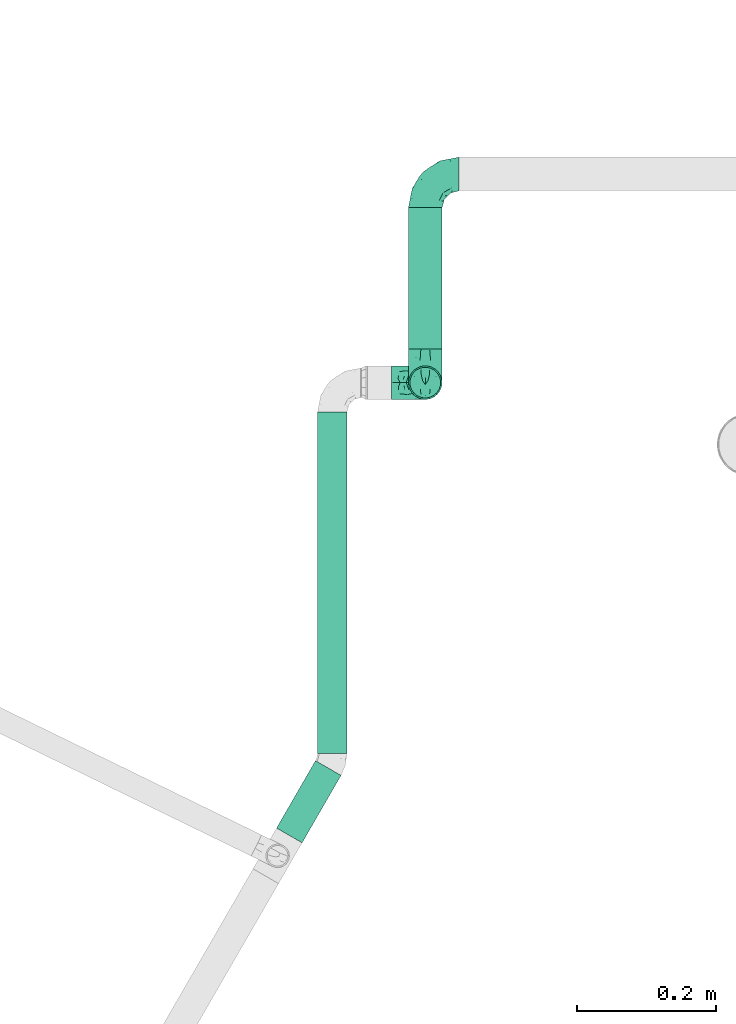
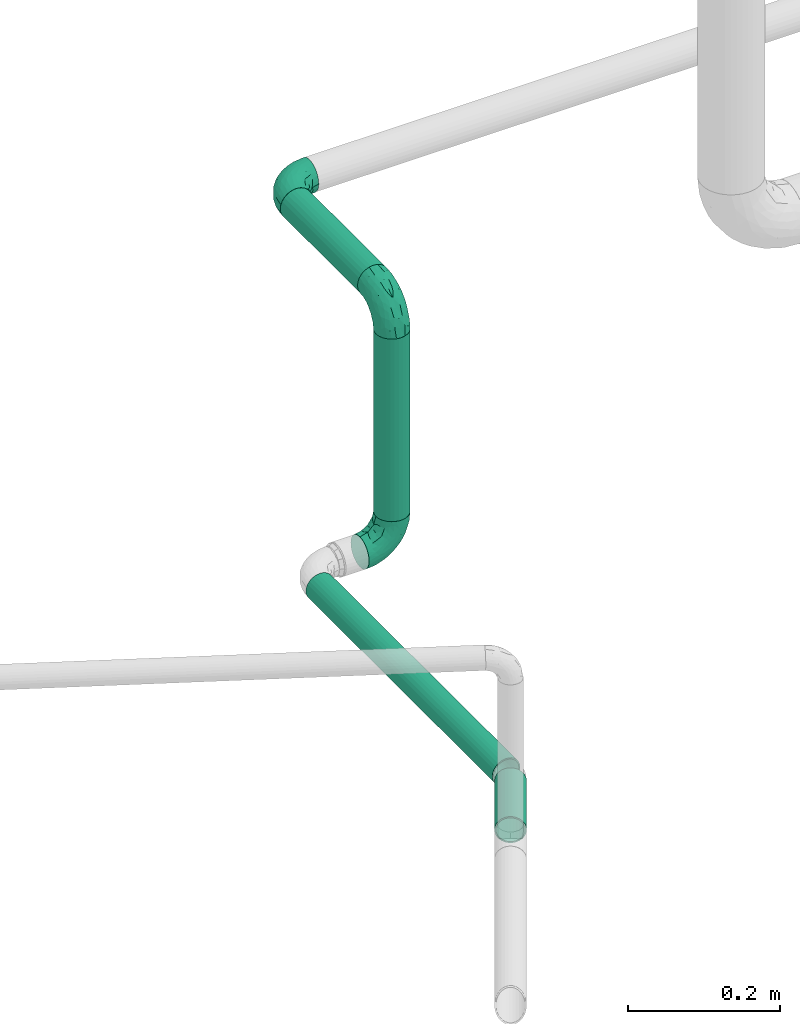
# One storey, part 5 of 43: 4 flow segments, 3 flow fittings.
"""IFC2X3 building model written with IfcOpenShell, lengths in millimetres."""

from ifc_helpers import new_model, entity, si_unit, converted_unit, derived_unit, direction, frame, origin_with_axes, origin_2d_with_axis, place, context, subcontext, project, spatial, hollow_circle, extrude, open_shell, surface_model, source, transform, mapped, type_object, element, save


model = new_model("IFC2X3")

# Units and contexts
model_context = context("Model", 3, precision=0.01, world=frame((0.0, 4.29681676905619e-09, 0.0)), true_north=direction((4.01073788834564e-13, 1.0)))
plan_context = context("Plan", 3, precision=0.01, world=frame((0.0, 4.29681676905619e-09, 0.0)), true_north=direction((4.01073788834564e-13, 1.0)))
body_context = subcontext(model_context, "Body", "Model", "MODEL_VIEW")
ifc_project = project(units=[converted_unit("PLANEANGLEUNIT", "DEGREE", entity("IfcPositiveLengthMeasure", 0.0174532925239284), si_unit("PLANEANGLEUNIT", "RADIAN"), dimensions=[0, 0, 0, 0, 0, 0, 0]), si_unit("AREAUNIT", "SQUARE_METRE"), si_unit("LENGTHUNIT", "METRE", prefix="MILLI"), si_unit("MASSUNIT", "GRAM", prefix="KILO"), si_unit("POWERUNIT", "WATT"), si_unit("PRESSUREUNIT", "PASCAL"), si_unit("FORCEUNIT", "NEWTON", prefix="KILO"), si_unit("ELECTRICVOLTAGEUNIT", "VOLT"), si_unit("ELECTRICCURRENTUNIT", "AMPERE"), si_unit("THERMODYNAMICTEMPERATUREUNIT", "DEGREE_CELSIUS"), si_unit("TIMEUNIT", "SECOND"), si_unit("VOLUMEUNIT", "CUBIC_METRE"), derived_unit("LINEARVELOCITYUNIT", [(si_unit("LENGTHUNIT", "METRE"), 1), (si_unit("TIMEUNIT", "SECOND"), -1)]), derived_unit("VOLUMETRICFLOWRATEUNIT", [(si_unit("VOLUMEUNIT", "CUBIC_METRE"), 1), (si_unit("TIMEUNIT", "SECOND"), -1)]), derived_unit("THERMALTRANSMITTANCEUNIT", [(si_unit("POWERUNIT", "WATT"), 1), (si_unit("THERMODYNAMICTEMPERATUREUNIT", "KELVIN"), -1), (si_unit("AREAUNIT", "SQUARE_METRE"), -1)]), derived_unit("SOUNDPRESSUREUNIT", [(si_unit("PRESSUREUNIT", "PASCAL"), 1)])], contexts=[model_context, plan_context])

# Site, building, storey
site_placement = place(None, frame((0.0, -4.29681676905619e-09, 0.0), z_axis=(0.0, 0.0, 1.0), x_axis=(1.0, 0.0, 0.0)))
site = spatial("IfcSite", under=ifc_project, at=site_placement, CompositionType="ELEMENT")
building_placement = place(site_placement, frame((0.0, 4.29681676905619e-09, 0.0), z_axis=(0.0, 0.0, 1.0), x_axis=(1.0, 0.0, 0.0)))
building = spatial("IfcBuilding", under=site, at=building_placement, Name="mc-building", CompositionType="ELEMENT")
storey_placement = place(building_placement, frame((0.0, 0.0, 210900.0), z_axis=(0.0, 0.0, 1.0), x_axis=(1.0, 0.0, 0.0)))
storey = spatial("IfcBuildingStorey", under=building, at=storey_placement, Name="Nivå F", CompositionType="ELEMENT", Elevation=210900.0)

# Flow fittings
pipe_fitting_type = type_object("IfcPipeFittingType", Name="magi_pipe_fe_elbow_short_001", PredefinedType="BEND")
shared_shape_1 = source(origin_with_axes(), body_context, "Body", "SurfaceModel", [
    surface_model("IfcShellBasedSurfaceModel", [(-48.4, 6.26342, -23.37541), (-48.4, 0.0, -24.2), (-48.4, 17.11198, -17.11198), (-48.4, 12.1, -20.95781), (-48.4, 23.37541, -6.26342), (-48.4, 20.95781, -12.1), (-48.4, -12.1, -20.95781), (-48.4, -17.11198, -17.11198), (-48.4, -20.95781, -12.1), (-48.4, -6.26342, -23.37541), (-48.4, -23.37541, -6.26342), (-48.4, -24.2, 0.0), (-48.4, -23.37541, 6.26342), (-48.4, 23.37541, 6.26342), (-48.4, 6.26342, 23.37541), (-48.4, 20.95781, 12.1), (-48.4, 17.11198, 17.11198), (-48.4, 12.1, 20.95781), (-48.4, -12.1, 20.95781), (-48.4, -20.95781, 12.1), (-48.4, -17.11198, 17.11198), (-48.4, -6.26342, 23.37541), (-48.4, 0.0, 24.2), (-48.4, 24.2, 0.0), (-17.11198, 48.4, -17.11198), (0.0, 48.4, -24.2), (-6.26342, 48.4, -23.37541), (-12.1, 48.4, -20.95781), (-20.95781, 48.4, -12.1), (-23.37541, 48.4, -6.26342), (12.1, 48.4, -20.95781), (20.95781, 48.4, -12.1), (17.11198, 48.4, -17.11198), (6.26342, 48.4, -23.37541), (23.37541, 48.4, -6.26342), (23.37541, 48.4, 6.26342), (24.2, 48.4, 0.0), (-23.37541, 48.4, 6.26342), (-6.26342, 48.4, 23.37541), (-17.11198, 48.4, 17.11198), (-20.95781, 48.4, 12.1), (-12.1, 48.4, 20.95781), (12.1, 48.4, 20.95781), (17.11198, 48.4, 17.11198), (20.95781, 48.4, 12.1), (0.0, 48.4, 24.2), (6.26342, 48.4, 23.37541), (-24.2, 48.4, 0.0), (-35.50368, -18.80076, 13.58523), (-31.77913, -13.9618, 18.03279), (-34.50859, -21.43683, 0.0), (-21.39243, -15.41147, 12.21413), (-32.16301, -21.12203, 7.54749), (21.12203, 32.16301, 7.54749), (17.07617, 18.95745, 6.20374), (18.67365, 20.61718, 0.0), (-23.65565, 38.62451, 10.51816), (-20.21592, 37.67665, 15.89859), (-35.56981, -9.15108, 21.77256), (-36.96985, -3.20584, 23.78612), (-33.88786, 3.70953, 24.15875), (-8.84062, -10.8048, 0.0), (-18.95745, -17.07617, 6.20374), (-20.61718, -18.67365, 0.0), (-18.69715, -5.87343, 20.10488), (-24.09336, -0.21717, 23.45593), (-2.08262, -4.09091, 10.90396), (-0.40561, 0.49936, 14.45569), (-8.22634, -5.79523, 14.90978), (-37.83027, 20.17367, 15.88169), (-8.41063, 23.79825, 24.15658), (-17.92529, 17.92529, 23.61199), (-14.40991, 10.5752, 24.07534), (-41.86919, 14.6551, 19.71874), (-9.03342, 41.7434, 22.66763), (-3.31671, 36.19978, 24.14056), (-38.63654, 23.65174, 10.51655), (-38.25939, 25.77657, 5.32075), (-30.0475, 30.0475, 9.04616), (-37.30448, 9.49113, 22.86036), (-6.31688, 16.20853, 23.76192), (-12.02449, 4.43954, 22.59792), (-2.47225, 13.07459, 22.23951), (-4.32281, 4.32281, 19.78555), (13.9618, 31.77913, 18.03279), (15.41147, 21.39243, 12.21413), (18.80076, 35.50367, 13.58523), (-25.72741, 16.42033, 22.38358), (-26.59277, 10.36599, 23.76692), (3.20584, 36.96985, 23.78612), (9.15107, 35.56981, 21.77256), (5.87343, 18.69715, 20.10488), (21.43683, 34.50859, 0.0), (-23.74657, 5.93004, 24.18967), (-22.40302, 25.55556, 19.88516), (-33.3245, 16.42738, 20.3789), (-25.47357, 39.04012, 5.19167), (-30.32947, 31.74105, 4.25904), (11.04589, 19.60124, 16.55181), (-27.44219, 36.3, 0.0), (-10.46605, 32.79159, 23.04712), (-13.80953, 25.05111, 23.26361), (-17.54489, 31.27863, 20.33941), (-19.27982, 23.42922, 22.01925), (-14.78447, 40.57947, 19.81913), (-19.60124, -11.04589, 16.55181), (-25.09785, 32.07921, 13.69695), (-25.5093, 27.02629, 17.14196), (-31.08127, 26.00324, 13.49448), (0.21717, 24.09336, 23.45593), (5.51075, 8.40547, 15.32867), (-11.48597, -10.80284, 11.35932), (1.43689, -3.14326, 6.54995), (7.34882, 4.31024, 8.4514), (7.50574, 2.51208, 3.62663), (12.46453, 10.09451, 5.71609), (12.1504, 12.55391, 10.15678), (-36.3, 27.44219, 0.0), (-6.52237, -9.62364, 7.02633), (2.93595, -2.93595, 0.0), (10.8048, 8.84062, 0.0), (-19.60124, -11.04589, -16.55181), (-31.77913, -13.9618, -18.03279), (-18.69715, -5.87343, -20.10488), (-21.39243, -15.41147, -12.21413), (-37.67665, 20.21591, -15.89859), (-40.57947, 14.78447, -19.81913), (-39.04012, 25.47357, -5.19167), (-32.16301, -21.12203, -7.54749), (-30.0475, 30.0475, -9.04616), (-38.62452, 23.65565, -10.51816), (-18.95745, -17.07617, -6.20374), (-23.42922, 19.27982, -22.01926), (-25.05111, 13.80953, -23.26361), (-31.27863, 17.54489, -20.33941), (-14.6551, 41.86919, -19.71874), (-20.17367, 37.83026, -15.88169), (9.15108, 35.56981, -21.77256), (5.87343, 18.69715, -20.10488), (0.21717, 24.09336, -23.45593), (-41.7434, 9.03342, -22.66763), (-35.50368, -18.80076, -13.58523), (-35.56981, -9.15108, -21.77256), (-16.42033, 25.72741, -22.38358), (-9.49113, 37.30447, -22.86036), (-10.36599, 26.59277, -23.76692), (-36.96985, -3.20584, -23.78612), (-23.79826, 8.41063, -24.15658), (-17.92529, 17.92529, -23.61199), (-10.5752, 14.40991, -24.07534), (-36.19978, 3.31671, -24.14056), (-25.77657, 38.25939, -5.32075), (-23.65174, 38.63654, -10.51655), (-32.79159, 10.46605, -23.04712), (-31.74105, 30.32946, -4.25904), (-5.93004, 23.74657, -24.18967), (-25.55556, 22.40302, -19.88516), (-16.42738, 33.3245, -20.3789), (3.20584, 36.96985, -23.78612), (-3.70953, 33.88785, -24.15875), (18.80076, 35.50367, -13.58523), (13.9618, 31.77913, -18.03279), (7.50574, 2.51208, -3.62663), (12.46453, 10.09451, -5.71609), (-16.20853, 6.31688, -23.76192), (-4.43954, 12.02449, -22.59792), (-13.07459, 2.47225, -22.23951), (15.41147, 21.39243, -12.21413), (21.12203, 32.16301, -7.54749), (17.07617, 18.95745, -6.20374), (-32.07921, 25.09785, -13.69695), (11.04589, 19.60124, -16.55181), (12.1504, 12.55391, -10.15678), (5.51075, 8.40547, -15.32867), (-27.02629, 25.5093, -17.14196), (-26.00324, 31.08127, -13.49448), (-24.09336, -0.21717, -23.45593), (-4.32281, 4.32281, -19.78555), (-8.22634, -5.79524, -14.90978), (-11.48597, -10.80284, -11.35931), (-0.40561, 0.49936, -14.45569), (-6.52237, -9.62364, -7.02632), (-2.08262, -4.09091, -10.90396), (7.34882, 4.31024, -8.4514), (1.43689, -3.14326, -6.54994)], [open_shell([[[0, 1, 2]], [[3, 0, 2]], [[4, 5, 2]], [[6, 2, 1]], [[4, 2, 6]], [[7, 8, 6]], [[1, 9, 6]], [[8, 10, 6]], [[6, 10, 4]], [[11, 12, 10]], [[13, 4, 10]], [[14, 13, 10]], [[15, 13, 16]], [[13, 14, 17]], [[16, 13, 17]], [[10, 18, 14]], [[19, 20, 12]], [[20, 10, 12]], [[21, 22, 18]], [[20, 18, 10]], [[18, 22, 14]], [[23, 4, 13]], [[24, 25, 26]], [[24, 26, 27]], [[24, 28, 29]], [[25, 24, 30]], [[30, 24, 29]], [[30, 31, 32]], [[30, 33, 25]], [[30, 34, 31]], [[29, 34, 30]], [[34, 35, 36]], [[34, 29, 37]], [[34, 37, 38]], [[39, 37, 40]], [[41, 38, 37]], [[41, 37, 39]], [[38, 42, 34]], [[35, 43, 44]], [[35, 34, 43]], [[42, 45, 46]], [[34, 42, 43]], [[38, 45, 42]], [[37, 29, 47]], [[20, 48, 49]], [[12, 11, 50]], [[51, 48, 52]], [[53, 54, 55]], [[48, 20, 19]], [[12, 52, 19]], [[40, 56, 57]], [[49, 18, 20]], [[49, 58, 18]], [[22, 59, 60]], [[61, 62, 63]], [[58, 64, 65]], [[66, 67, 68]], [[15, 16, 69]], [[70, 71, 72]], [[17, 73, 16]], [[21, 59, 22]], [[38, 74, 75]], [[22, 60, 14]], [[15, 69, 76]], [[16, 73, 69]], [[23, 13, 77]], [[13, 15, 76]], [[77, 76, 78]], [[14, 79, 17]], [[80, 81, 82]], [[68, 83, 64]], [[84, 43, 42]], [[85, 86, 84]], [[87, 79, 88]], [[18, 58, 21]], [[45, 89, 46]], [[53, 35, 44]], [[45, 38, 75]], [[84, 90, 91]], [[44, 86, 53]], [[92, 35, 53]], [[86, 44, 43]], [[90, 42, 46]], [[53, 55, 92]], [[88, 93, 72]], [[54, 53, 85]], [[87, 94, 95]], [[78, 96, 97]], [[98, 84, 91]], [[99, 96, 47]], [[79, 14, 60]], [[96, 78, 56]], [[62, 52, 63]], [[57, 39, 40]], [[100, 70, 75]], [[101, 102, 103]], [[12, 50, 52]], [[104, 41, 39]], [[74, 38, 41]], [[57, 102, 104]], [[105, 64, 49]], [[90, 84, 42]], [[40, 37, 56]], [[56, 106, 57]], [[102, 57, 107]], [[95, 107, 69]], [[76, 108, 78]], [[100, 101, 70]], [[89, 75, 109]], [[64, 58, 49]], [[63, 52, 50]], [[59, 58, 65]], [[105, 49, 51]], [[64, 83, 81]], [[89, 90, 46]], [[36, 35, 92]], [[109, 82, 91]], [[109, 91, 90]], [[91, 83, 110]], [[111, 68, 105]], [[66, 68, 111]], [[62, 51, 52]], [[66, 112, 113]], [[114, 115, 113]], [[98, 85, 84]], [[52, 48, 19]], [[49, 48, 51]], [[84, 86, 43]], [[53, 86, 85]], [[88, 79, 60]], [[73, 79, 95]], [[96, 56, 37]], [[78, 108, 106]], [[87, 103, 94]], [[100, 74, 104]], [[108, 69, 107]], [[78, 97, 77]], [[88, 72, 71]], [[109, 75, 70]], [[81, 72, 65]], [[70, 72, 80]], [[75, 89, 45]], [[90, 89, 109]], [[58, 59, 21]], [[60, 59, 65]], [[67, 83, 68]], [[110, 113, 116]], [[88, 60, 93]], [[87, 88, 71]], [[103, 87, 71]], [[79, 87, 95]], [[101, 103, 71]], [[94, 103, 102]], [[47, 96, 37]], [[96, 99, 97]], [[99, 117, 97]], [[97, 117, 77]], [[23, 77, 117]], [[13, 76, 77]], [[60, 65, 93]], [[65, 72, 93]], [[70, 101, 71]], [[102, 101, 100]], [[69, 108, 76]], [[106, 108, 107]], [[57, 106, 107]], [[78, 106, 56]], [[57, 104, 39]], [[100, 104, 102]], [[102, 107, 94]], [[95, 94, 107]], [[64, 81, 65]], [[82, 81, 83]], [[91, 82, 83]], [[80, 82, 109]], [[70, 80, 109]], [[81, 80, 72]], [[79, 73, 17]], [[69, 73, 95]], [[104, 74, 41]], [[75, 74, 100]], [[62, 61, 118]], [[111, 62, 118]], [[113, 115, 116]], [[119, 118, 61]], [[111, 105, 51]], [[113, 112, 114]], [[120, 55, 54]], [[68, 64, 105]], [[91, 110, 98]], [[116, 98, 110]], [[62, 111, 51]], [[66, 111, 118]], [[112, 66, 118]], [[67, 113, 110]], [[118, 119, 112]], [[114, 112, 119]], [[119, 120, 114]], [[115, 120, 54]], [[120, 115, 114]], [[116, 54, 85]], [[54, 116, 115]], [[116, 85, 98]], [[113, 67, 66]], [[83, 67, 110]], [[121, 122, 123]], [[122, 121, 124]], [[5, 125, 2]], [[2, 126, 3]], [[117, 127, 23]], [[50, 10, 128]], [[127, 129, 130]], [[128, 131, 63]], [[132, 133, 134]], [[24, 135, 136]], [[137, 138, 139]], [[3, 140, 0]], [[128, 8, 141]], [[142, 6, 9]], [[128, 63, 50]], [[5, 4, 130]], [[8, 7, 141]], [[143, 144, 145]], [[146, 9, 1]], [[147, 148, 149]], [[8, 128, 10]], [[124, 141, 122]], [[150, 1, 0]], [[151, 152, 129]], [[125, 134, 126]], [[153, 147, 150]], [[127, 154, 129]], [[145, 155, 149]], [[47, 29, 151]], [[143, 156, 157]], [[152, 29, 28]], [[25, 158, 159]], [[122, 7, 6]], [[24, 27, 135]], [[144, 27, 26]], [[32, 160, 161]], [[25, 33, 158]], [[120, 162, 163]], [[130, 125, 5]], [[24, 136, 28]], [[0, 140, 150]], [[30, 161, 137]], [[142, 122, 6]], [[25, 159, 26]], [[164, 165, 166]], [[31, 160, 32]], [[161, 30, 32]], [[167, 160, 168]], [[131, 128, 124]], [[36, 92, 34]], [[34, 92, 168]], [[169, 168, 55]], [[34, 168, 31]], [[144, 26, 159]], [[130, 170, 125]], [[171, 172, 173]], [[136, 152, 28]], [[30, 137, 33]], [[122, 142, 123]], [[134, 125, 174]], [[157, 174, 136]], [[152, 175, 129]], [[153, 133, 147]], [[146, 150, 176]], [[146, 142, 9]], [[11, 10, 50]], [[176, 166, 123]], [[176, 123, 142]], [[123, 177, 178]], [[138, 137, 161]], [[55, 168, 92]], [[158, 137, 139]], [[171, 161, 167]], [[138, 177, 165]], [[177, 138, 173]], [[124, 121, 179]], [[173, 180, 177]], [[61, 131, 181]], [[182, 181, 179]], [[169, 167, 168]], [[122, 141, 7]], [[128, 141, 124]], [[168, 160, 31]], [[161, 160, 167]], [[145, 144, 159]], [[135, 144, 157]], [[127, 130, 4]], [[129, 175, 170]], [[143, 132, 156]], [[153, 140, 126]], [[175, 136, 174]], [[129, 154, 151]], [[145, 149, 148]], [[176, 150, 147]], [[165, 149, 139]], [[147, 149, 164]], [[150, 146, 1]], [[142, 146, 176]], [[137, 158, 33]], [[159, 158, 139]], [[171, 138, 161]], [[183, 182, 180]], [[145, 159, 155]], [[143, 145, 148]], [[132, 143, 148]], [[144, 143, 157]], [[133, 132, 148]], [[156, 132, 134]], [[23, 127, 4]], [[127, 117, 154]], [[117, 99, 154]], [[154, 99, 151]], [[47, 151, 99]], [[29, 152, 151]], [[159, 139, 155]], [[139, 149, 155]], [[147, 133, 148]], [[134, 133, 153]], [[136, 175, 152]], [[170, 175, 174]], [[125, 170, 174]], [[129, 170, 130]], [[125, 126, 2]], [[153, 126, 134]], [[134, 174, 156]], [[157, 156, 174]], [[138, 165, 139]], [[166, 165, 177]], [[123, 166, 177]], [[164, 166, 176]], [[147, 164, 176]], [[165, 164, 149]], [[144, 135, 27]], [[136, 135, 157]], [[126, 140, 3]], [[150, 140, 153]], [[179, 131, 124]], [[181, 119, 61]], [[63, 131, 61]], [[169, 163, 172]], [[169, 55, 120]], [[123, 178, 121]], [[179, 121, 178]], [[172, 171, 167]], [[173, 138, 171]], [[182, 179, 178]], [[131, 179, 181]], [[180, 182, 178]], [[163, 162, 183]], [[120, 119, 162]], [[172, 163, 183]], [[120, 163, 169]], [[173, 172, 183]], [[169, 172, 167]], [[177, 180, 178]], [[183, 180, 173]], [[184, 181, 182]], [[184, 182, 183]], [[119, 181, 184]], [[119, 184, 162]], [[162, 184, 183]]])]),
])
for number, where, z_axis, x_axis, name in (
    (1, (605702.39161, 697325.26176, 2270.0), (0.0, -1.0, 0.0), (1.0, 0.0, 0.0), "magi_pipe_fe_elbow_short_001"),
    (2, (605702.39161, 697325.26176, 2660.0), (-1.0, 0.0, 0.0), (0.0, 0.0, 1.0), "magi_pipe_fe_elbow_short_001"),
    (3, (605702.39161, 697625.26176, 2660.0), (0.0, 0.0, 1.0), (-1.0, 0.0, 0.0), "magi_pipe_fe_elbow_short_001"),
):
    element("IfcFlowFitting", number, at=place(storey_placement, frame(where, z_axis=z_axis, x_axis=x_axis)), inside=storey, type_object=pipe_fitting_type, Name=name, context=body_context, shape_type="MappedRepresentation", body=[
        mapped(shared_shape_1, transform((0.0, 0.0, 0.0), scale=1.0)),
    ])

# Flow segments
pipe_segment_type = type_object("IfcPipeSegmentType", Name="Stålrør normaltykke", PredefinedType="RIGIDSEGMENT")
shared_shape_2 = source(origin_with_axes(), body_context, "Body", "SweptSolid", [
    extrude(hollow_circle(Radius=21.2, WallThickness=2.0, at=origin_2d_with_axis()), frame((0.0, 0.0, 0.0), z_axis=(1.0, 0.0, 0.0), x_axis=(0.0, 1.0, 0.0)), (0.0, 0.0, 1.0), 490.5),
])
flow_segment_1_placement = place(storey_placement, frame((605568.59161, 696792.32599, 2270.0), z_axis=(0.0, 0.0, 1.0), x_axis=(0.0, 1.0, 0.0)))
element("IfcFlowSegment", 4, at=flow_segment_1_placement, inside=storey, type_object=pipe_segment_type, Name="Stålrør normaltykke", context=body_context, shape_type="MappedRepresentation", body=[
    mapped(shared_shape_2, transform((0.0, 0.0, 0.0), scale=1.0)),
])
shared_shape_3 = source(origin_with_axes(), body_context, "Body", "SweptSolid", [
    extrude(hollow_circle(Radius=24.1, WallThickness=2.0, at=origin_2d_with_axis()), frame((0.0, 0.0, 0.0), z_axis=(1.0, 0.0, 0.0), x_axis=(0.0, 1.0, 0.0)), (0.0, 0.0, 1.0), 203.2),
])
flow_segment_2_placement = place(storey_placement, frame((605702.39161, 697373.66176, 2660.0), z_axis=(0.0, 0.0, 1.0), x_axis=(0.0, 1.0, 0.0)))
element("IfcFlowSegment", 5, at=flow_segment_2_placement, inside=storey, type_object=pipe_segment_type, Name="Stålrør normaltykke", context=body_context, shape_type="MappedRepresentation", body=[
    mapped(shared_shape_3, transform((0.0, 0.0, 0.0), scale=1.0)),
])
shared_shape_4 = source(origin_with_axes(), body_context, "Body", "SweptSolid", [
    extrude(hollow_circle(Radius=24.1, WallThickness=2.0, at=origin_2d_with_axis()), frame((0.0, 0.0, 0.0), z_axis=(1.0, 0.0, 0.0), x_axis=(0.0, 1.0, 0.0)), (0.0, 0.0, 1.0), 293.2),
])
flow_segment_3_placement = place(storey_placement, frame((605702.39161, 697325.26176, 2318.39999999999), z_axis=(0.0, -1.0, 0.0), x_axis=(0.0, 0.0, 1.0)))
element("IfcFlowSegment", 6, at=flow_segment_3_placement, inside=storey, type_object=pipe_segment_type, Name="Stålrør normaltykke", context=body_context, shape_type="MappedRepresentation", body=[
    mapped(shared_shape_4, transform((0.0, 0.0, 0.0), scale=1.0)),
])
shared_shape_5 = source(origin_with_axes(), body_context, "Body", "SweptSolid", [
    extrude(hollow_circle(Radius=21.2, WallThickness=2.0, at=origin_2d_with_axis()), frame((0.0, 0.0, 0.0), z_axis=(1.0, 0.0, 0.0), x_axis=(0.0, 1.0, 0.0)), (0.0, 0.0, 1.0), 112.0),
])
flow_segment_4_placement = place(storey_placement, frame((605562.91109, 696771.12599, 2270.0), z_axis=(0.0, 0.0, 1.0), x_axis=(-0.500000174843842, -0.866025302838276, 0.0)))
element("IfcFlowSegment", 7, at=flow_segment_4_placement, inside=storey, type_object=pipe_segment_type, Name="Stålrør normaltykke", context=body_context, shape_type="MappedRepresentation", body=[
    mapped(shared_shape_5, transform((0.0, 0.0, 0.0), scale=1.0)),
])

save(model, "model.ifc")
